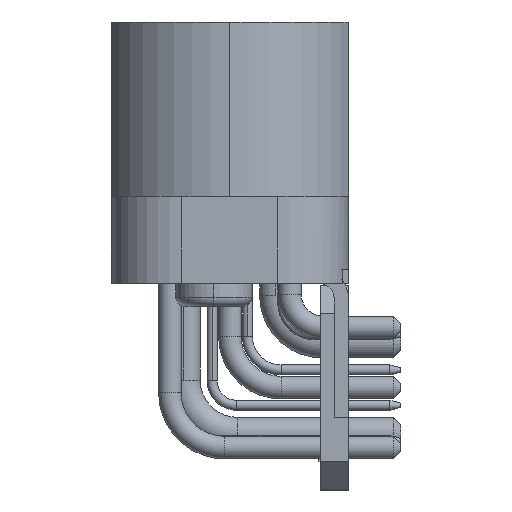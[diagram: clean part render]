
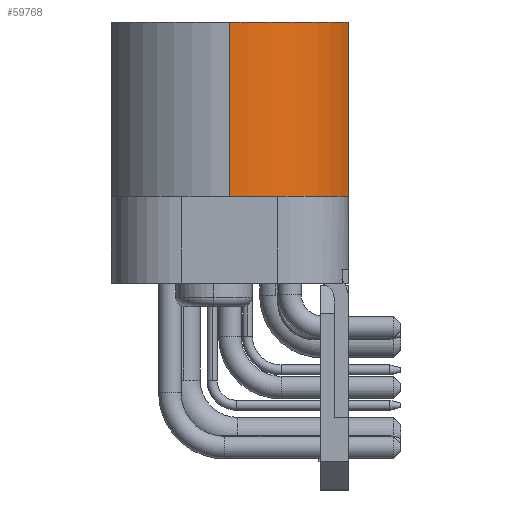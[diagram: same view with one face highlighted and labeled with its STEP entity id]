
A CAD part, left-side view. The second image highlights one B-rep face of the part: STEP entity #59768.
In plain terms, the highlighted cylindrical face has radius 8.92 mm (diameter 17.84 mm), a partial arc.
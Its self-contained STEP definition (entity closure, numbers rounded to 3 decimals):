
#6118 = FACE_OUTER_BOUND ( 'NONE', #46342, .T. ) ;
#9408 = AXIS2_PLACEMENT_3D ( 'NONE', #64136, #55401, #81611 ) ;
#15578 = ORIENTED_EDGE ( 'NONE', *, *, #61172, .T. ) ;
#17307 = DIRECTION ( 'NONE',  ( 0., 0., -1. ) ) ;
#17971 = EDGE_CURVE ( 'NONE', #81965, #80361, #110841, .T. ) ;
#24363 = CARTESIAN_POINT ( 'NONE',  ( -23.445, -8.395, 12.8 ) ) ;
#30146 = CARTESIAN_POINT ( 'NONE',  ( -20.43, 0., 12.8 ) ) ;
#36647 = CARTESIAN_POINT ( 'NONE',  ( -29.35, 0., 92.364 ) ) ;
#36961 = CARTESIAN_POINT ( 'NONE',  ( -23.445, -8.395, 0.45 ) ) ;
#37145 = VERTEX_POINT ( 'NONE', #36961 ) ;
#46342 = EDGE_LOOP ( 'NONE', ( #57739, #56466, #15578, #48093 ) ) ;
#47932 = EDGE_CURVE ( 'NONE', #92956, #37145, #86832, .T. ) ;
#48093 = ORIENTED_EDGE ( 'NONE', *, *, #47932, .F. ) ;
#50678 = CARTESIAN_POINT ( 'NONE',  ( -23.445, -8.395, 92.364 ) ) ;
#55401 = DIRECTION ( 'NONE',  ( 0., 0., 1. ) ) ;
#56466 = ORIENTED_EDGE ( 'NONE', *, *, #17971, .T. ) ;
#57739 = ORIENTED_EDGE ( 'NONE', *, *, #95099, .F. ) ;
#59400 = DIRECTION ( 'NONE',  ( 0., 0., -1. ) ) ;
#59768 = ADVANCED_FACE ( 'NONE', ( #6118 ), #119565, .T. ) ;
#61172 = EDGE_CURVE ( 'NONE', #80361, #37145, #63158, .T. ) ;
#63158 = CIRCLE ( 'NONE', #9408, 8.92 ) ;
#63474 = CARTESIAN_POINT ( 'NONE',  ( -20.43, 0., 92.364 ) ) ;
#64136 = CARTESIAN_POINT ( 'NONE',  ( -20.43, 0., 0.45 ) ) ;
#66358 = AXIS2_PLACEMENT_3D ( 'NONE', #30146, #68150, #114288 ) ;
#68150 = DIRECTION ( 'NONE',  ( 0., 0., 1. ) ) ;
#70369 = CIRCLE ( 'NONE', #66358, 8.92 ) ;
#72187 = DIRECTION ( 'NONE',  ( -1., 0., 0. ) ) ;
#78976 = VECTOR ( 'NONE', #84031, 1000. ) ;
#80361 = VERTEX_POINT ( 'NONE', #84545 ) ;
#81611 = DIRECTION ( 'NONE',  ( -1., 0., 0. ) ) ;
#81965 = VERTEX_POINT ( 'NONE', #114758 ) ;
#84031 = DIRECTION ( 'NONE',  ( 0., 0., -1. ) ) ;
#84545 = CARTESIAN_POINT ( 'NONE',  ( -29.35, 0., 0.45 ) ) ;
#84957 = AXIS2_PLACEMENT_3D ( 'NONE', #63474, #17307, #72187 ) ;
#86832 = LINE ( 'NONE', #50678, #103967 ) ;
#92956 = VERTEX_POINT ( 'NONE', #24363 ) ;
#95099 = EDGE_CURVE ( 'NONE', #81965, #92956, #70369, .T. ) ;
#103967 = VECTOR ( 'NONE', #59400, 1000. ) ;
#110841 = LINE ( 'NONE', #36647, #78976 ) ;
#114288 = DIRECTION ( 'NONE',  ( 1., 0., 0. ) ) ;
#114758 = CARTESIAN_POINT ( 'NONE',  ( -29.35, 0., 12.8 ) ) ;
#119565 = CYLINDRICAL_SURFACE ( 'NONE', #84957, 8.92 ) ;
